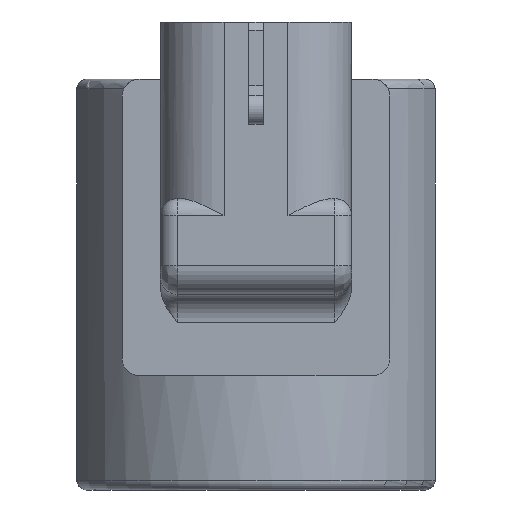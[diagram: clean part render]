
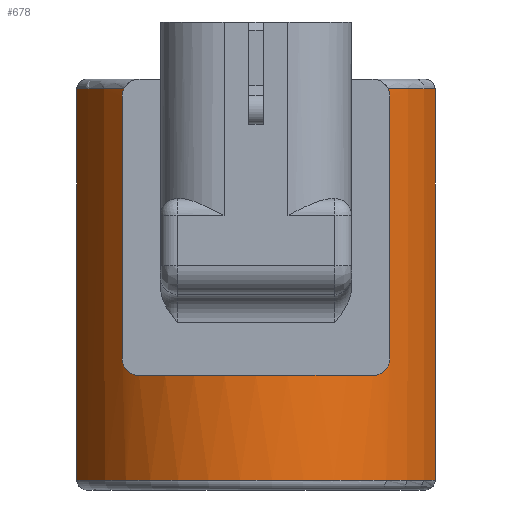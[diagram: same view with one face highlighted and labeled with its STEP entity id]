
A CAD part, left-side view. The second image highlights one B-rep face of the part: STEP entity #678.
In plain terms, the highlighted cylindrical face has radius 19.5 mm (diameter 39 mm), a partial arc.
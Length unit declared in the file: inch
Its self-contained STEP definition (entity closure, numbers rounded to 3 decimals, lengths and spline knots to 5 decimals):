
#357=CARTESIAN_POINT('',(5.32879,4.35371,-1.58583));
#358=VERTEX_POINT('',#357);
#418=CARTESIAN_POINT('',(5.32879,2.87733,-1.58583));
#419=VERTEX_POINT('',#418);
#437=CARTESIAN_POINT('',(5.53966,3.61552,-1.58583));
#438=DIRECTION('',(0.0,0.0,-1.0));
#439=DIRECTION('',(-1.0,0.0,0.0));
#440=AXIS2_PLACEMENT_3D('',#437,#438,#439);
#441=CIRCLE('',#440,0.76772);
#442=EDGE_CURVE('',#419,#358,#441,.T.);
#534=CARTESIAN_POINT('',(5.32879,4.35371,0.02835));
#535=VERTEX_POINT('',#534);
#536=CARTESIAN_POINT('',(5.32879,4.35371,0.02835));
#537=DIRECTION('',(0.0,0.0,-1.0));
#538=VECTOR('',#537,1.61417);
#539=LINE('',#536,#538);
#540=EDGE_CURVE('',#535,#358,#539,.T.);
#560=CARTESIAN_POINT('',(5.53966,3.61552,0.06772));
#561=DIRECTION('',(0.0,0.0,-1.0));
#562=DIRECTION('',(-1.0,0.0,0.0));
#563=AXIS2_PLACEMENT_3D('',#560,#561,#562);
#564=CYLINDRICAL_SURFACE('',#563,0.76772);
#565=CARTESIAN_POINT('',(5.32879,2.87733,0.02835));
#566=VERTEX_POINT('',#565);
#567=CARTESIAN_POINT('',(5.32879,2.87733,0.02835));
#568=DIRECTION('',(0.0,0.0,-1.0));
#569=VECTOR('',#568,1.61417);
#570=LINE('',#567,#569);
#571=EDGE_CURVE('',#566,#419,#570,.T.);
#572=ORIENTED_EDGE('',*,*,#571,.F.);
#573=CARTESIAN_POINT('',(4.99848,3.07099,0.02835));
#574=VERTEX_POINT('',#573);
#575=CARTESIAN_POINT('',(5.53966,3.61552,0.02835));
#576=DIRECTION('',(0.0,0.0,1.0));
#577=DIRECTION('',(-1.0,0.0,0.0));
#578=AXIS2_PLACEMENT_3D('',#575,#576,#577);
#579=CIRCLE('',#578,0.76772);
#580=EDGE_CURVE('',#574,#566,#579,.T.);
#581=ORIENTED_EDGE('',*,*,#580,.F.);
#582=CARTESIAN_POINT('',(5.00525,3.06434,-0.00118));
#583=VERTEX_POINT('',#582);
#584=CARTESIAN_POINT('',(4.99848,3.07099,0.02835));
#585=CARTESIAN_POINT('',(4.99911,3.07036,0.02702));
#586=CARTESIAN_POINT('',(4.99971,3.06977,0.02566));
#587=CARTESIAN_POINT('',(5.00186,3.06764,0.02032));
#588=CARTESIAN_POINT('',(5.00313,3.06641,0.01613));
#589=CARTESIAN_POINT('',(5.00483,3.06475,0.00754));
#590=CARTESIAN_POINT('',(5.00525,3.06434,0.00315));
#591=CARTESIAN_POINT('',(5.00525,3.06434,-0.00118));
#592=B_SPLINE_CURVE_WITH_KNOTS('',3,(#584,#585,#586,#587,#588,#589,#590,#591),.UNSPECIFIED.,.F.,.U.,(4,2,2,4),(-0.77574,-0.66013,-0.33006,0.0),.UNSPECIFIED.);
#593=EDGE_CURVE('',#574,#583,#592,.T.);
#594=ORIENTED_EDGE('',*,*,#593,.T.);
#595=CARTESIAN_POINT('',(5.00525,3.06434,-1.08386));
#596=VERTEX_POINT('',#595);
#597=CARTESIAN_POINT('',(5.00525,3.06434,-0.00118));
#598=DIRECTION('',(0.0,0.0,-1.0));
#599=VECTOR('',#598,1.08268);
#600=LINE('',#597,#599);
#601=EDGE_CURVE('',#583,#596,#600,.T.);
#602=ORIENTED_EDGE('',*,*,#601,.T.);
#603=CARTESIAN_POINT('',(4.94234,3.13324,-1.15276));
#604=VERTEX_POINT('',#603);
#605=CARTESIAN_POINT('',(5.00525,3.06434,-1.08386));
#606=CARTESIAN_POINT('',(5.00525,3.06434,-1.08819));
#607=CARTESIAN_POINT('',(5.00483,3.06475,-1.09258));
#608=CARTESIAN_POINT('',(5.00313,3.06641,-1.10117));
#609=CARTESIAN_POINT('',(5.00186,3.06764,-1.10536));
#610=CARTESIAN_POINT('',(4.99708,3.07236,-1.11723));
#611=CARTESIAN_POINT('',(4.99255,3.07691,-1.12419));
#612=CARTESIAN_POINT('',(4.98151,3.08832,-1.13703));
#613=CARTESIAN_POINT('',(4.97381,3.09653,-1.14298));
#614=CARTESIAN_POINT('',(4.95792,3.11441,-1.15085));
#615=CARTESIAN_POINT('',(4.94973,3.12409,-1.15276));
#616=CARTESIAN_POINT('',(4.94234,3.13324,-1.15276));
#617=B_SPLINE_CURVE_WITH_KNOTS('',3,(#605,#606,#607,#608,#609,#610,#611,#612,#613,#614,#615,#616),.UNSPECIFIED.,.F.,.U.,(4,2,2,2,2,4),(0.0,0.33006,0.66013,1.32026,2.21635,3.11244),.UNSPECIFIED.);
#618=EDGE_CURVE('',#596,#604,#617,.T.);
#619=ORIENTED_EDGE('',*,*,#618,.T.);
#620=CARTESIAN_POINT('',(4.94234,4.0978,-1.15276));
#621=VERTEX_POINT('',#620);
#622=CARTESIAN_POINT('',(5.53966,3.61552,-1.15276));
#623=DIRECTION('',(0.0,0.0,-1.0));
#624=DIRECTION('',(-1.0,0.0,0.0));
#625=AXIS2_PLACEMENT_3D('',#622,#623,#624);
#626=CIRCLE('',#625,0.76772);
#627=EDGE_CURVE('',#604,#621,#626,.T.);
#628=ORIENTED_EDGE('',*,*,#627,.T.);
#629=CARTESIAN_POINT('',(5.00525,4.1667,-1.08386));
#630=VERTEX_POINT('',#629);
#631=CARTESIAN_POINT('',(4.94234,4.0978,-1.15276));
#632=CARTESIAN_POINT('',(4.94973,4.10695,-1.15276));
#633=CARTESIAN_POINT('',(4.95792,4.11663,-1.15085));
#634=CARTESIAN_POINT('',(4.97381,4.13451,-1.14298));
#635=CARTESIAN_POINT('',(4.98151,4.14272,-1.13703));
#636=CARTESIAN_POINT('',(4.99255,4.15414,-1.12419));
#637=CARTESIAN_POINT('',(4.99708,4.15868,-1.11723));
#638=CARTESIAN_POINT('',(5.00186,4.1634,-1.10536));
#639=CARTESIAN_POINT('',(5.00313,4.16464,-1.10117));
#640=CARTESIAN_POINT('',(5.00483,4.16629,-1.09258));
#641=CARTESIAN_POINT('',(5.00525,4.1667,-1.08819));
#642=CARTESIAN_POINT('',(5.00525,4.1667,-1.08386));
#643=B_SPLINE_CURVE_WITH_KNOTS('',3,(#631,#632,#633,#634,#635,#636,#637,#638,#639,#640,#641,#642),.UNSPECIFIED.,.F.,.U.,(4,2,2,2,2,4),(-3.11244,-2.21635,-1.32026,-0.66013,-0.33006,0.0),.UNSPECIFIED.);
#644=EDGE_CURVE('',#621,#630,#643,.T.);
#645=ORIENTED_EDGE('',*,*,#644,.T.);
#646=CARTESIAN_POINT('',(5.00525,4.1667,-0.00118));
#647=VERTEX_POINT('',#646);
#648=CARTESIAN_POINT('',(5.00525,4.1667,-1.08386));
#649=DIRECTION('',(0.0,0.0,1.0));
#650=VECTOR('',#649,1.08268);
#651=LINE('',#648,#650);
#652=EDGE_CURVE('',#630,#647,#651,.T.);
#653=ORIENTED_EDGE('',*,*,#652,.T.);
#654=CARTESIAN_POINT('',(4.99848,4.16005,0.02835));
#655=VERTEX_POINT('',#654);
#656=CARTESIAN_POINT('',(5.00525,4.1667,-0.00118));
#657=CARTESIAN_POINT('',(5.00525,4.1667,0.00315));
#658=CARTESIAN_POINT('',(5.00483,4.16629,0.00754));
#659=CARTESIAN_POINT('',(5.00313,4.16464,0.01613));
#660=CARTESIAN_POINT('',(5.00186,4.1634,0.02032));
#661=CARTESIAN_POINT('',(4.99971,4.16128,0.02566));
#662=CARTESIAN_POINT('',(4.99911,4.16068,0.02702));
#663=CARTESIAN_POINT('',(4.99848,4.16005,0.02835));
#664=B_SPLINE_CURVE_WITH_KNOTS('',3,(#656,#657,#658,#659,#660,#661,#662,#663),.UNSPECIFIED.,.F.,.U.,(4,2,2,4),(0.0,0.33006,0.66013,0.77574),.UNSPECIFIED.);
#665=EDGE_CURVE('',#647,#655,#664,.T.);
#666=ORIENTED_EDGE('',*,*,#665,.T.);
#667=CARTESIAN_POINT('',(5.53966,3.61552,0.02835));
#668=DIRECTION('',(0.0,0.0,1.0));
#669=DIRECTION('',(-1.0,0.0,0.0));
#670=AXIS2_PLACEMENT_3D('',#667,#668,#669);
#671=CIRCLE('',#670,0.76772);
#672=EDGE_CURVE('',#535,#655,#671,.T.);
#673=ORIENTED_EDGE('',*,*,#672,.F.);
#674=ORIENTED_EDGE('',*,*,#540,.T.);
#675=ORIENTED_EDGE('',*,*,#442,.F.);
#676=EDGE_LOOP('',(#572,#581,#594,#602,#619,#628,#645,#653,#666,#673,#674,#675));
#677=FACE_OUTER_BOUND('',#676,.T.);
#678=ADVANCED_FACE('',(#677),#564,.T.);
